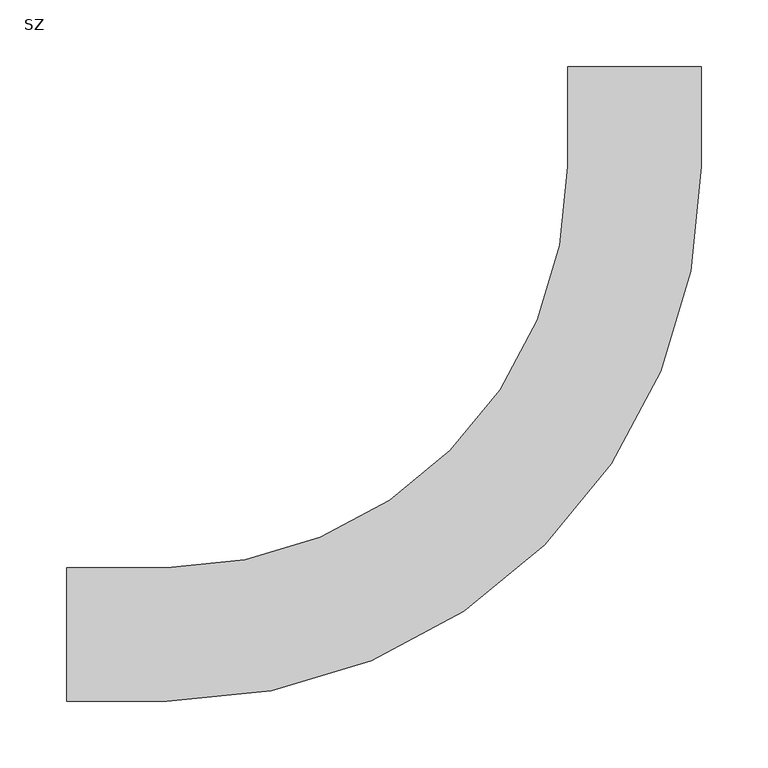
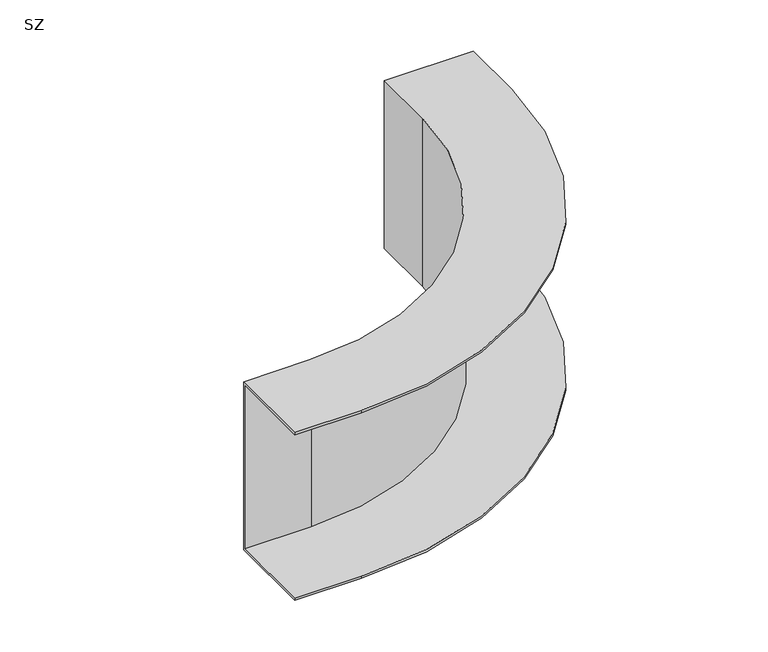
"""IFC4 building model written with IfcOpenShell, lengths in millimetres: cable carrier fitting geometry, IEK_Листовой_Поворот плавный вертик наруж : SZ."""

from ifc_helpers import new_model, si_unit, frame, origin, place, context, project, spatial, polyline, circle_curve, source, transform, mapped, element, save
from ifc_brep_helpers import plane_surface, cylinder_surface, revolved_surface, advanced_brep


def sz_e15724c8(model_context):
    return source(origin(), model_context, "Body", "AdvancedBrep", [
        advanced_brep(
        [(-425.0, -50.0, 100.0), (-425.0, 50.0, 100.0), (-425.0, 50.0, -100.0), (-425.0, -50.0, -100.0), (-425.0, -50.0, -97.5), (-425.0, 47.5, -97.5), (-425.0, 47.5, 97.5), (-425.0, -50.0, 97.5), (50.0, 425.0, 100.0), (50.0, 425.0, 97.5), (-47.5, 425.0, 97.5), (-47.5, 425.0, -97.5), (50.0, 425.0, -97.5), (50.0, 425.0, -100.0), (-50.0, 425.0, -100.0), (-50.0, 425.0, 100.0), (-350.0, -50.0, 100.0), (50.0, 350.0, 100.0), (-50.0, 350.0, 100.0), (-350.0, 50.0, 100.0), (-350.0, 50.0, -100.0), (-50.0, 350.0, -100.0), (50.0, 350.0, -100.0), (-350.0, -50.0, -100.0), (-350.0, -50.0, -97.5), (50.0, 350.0, -97.5), (-47.5, 350.0, -97.5), (-350.0, 47.5, -97.5), (-350.0, 47.5, 97.5), (-47.5, 350.0, 97.5), (50.0, 350.0, 97.5), (-350.0, -50.0, 97.5)],
        [
            (0, 1),
            (1, 2),
            (2, 3),
            (3, 4),
            (4, 5),
            (5, 6),
            (6, 7),
            (7, 0),
            (8, 9),
            (9, 10),
            (10, 11),
            (11, 12),
            (12, 13),
            (13, 14),
            (14, 15),
            (15, 8),
            (0, 16),
            (16, 17, circle_curve(frame((-350.0, 350.0, 100.0), z_axis=(0.0, 0.0, 1.0), x_axis=(0.0, -1.0, 0.0)), 400.0)),
            (17, 8),
            (15, 18),
            (18, 19, circle_curve(frame((-350.0, 350.0, 100.0), z_axis=(0.0, 0.0, -1.0), x_axis=(0.0, -1.0, 0.0)), 300.0)),
            (19, 1),
            (19, 20),
            (20, 2),
            (20, 21, circle_curve(frame((-350.0, 350.0, -100.0), z_axis=(0.0, 0.0, 1.0), x_axis=(0.0, -1.0, 0.0)), 300.0)),
            (21, 14),
            (13, 22),
            (22, 23, circle_curve(frame((-350.0, 350.0, -100.0), z_axis=(0.0, 0.0, -1.0), x_axis=(0.0, -1.0, 0.0)), 400.0)),
            (23, 3),
            (23, 24),
            (24, 4),
            (24, 25, circle_curve(frame((-350.0, 350.0, -97.5), z_axis=(0.0, 0.0, 1.0), x_axis=(0.0, -1.0, 0.0)), 400.0)),
            (25, 12),
            (11, 26),
            (26, 27, circle_curve(frame((-350.0, 350.0, -97.5), z_axis=(0.0, 0.0, -1.0), x_axis=(0.0, -1.0, 0.0)), 302.5)),
            (27, 5),
            (27, 28),
            (28, 6),
            (28, 29, circle_curve(frame((-350.0, 350.0, 97.5), z_axis=(0.0, 0.0, 1.0), x_axis=(0.0, -1.0, 0.0)), 302.5)),
            (29, 10),
            (9, 30),
            (30, 31, circle_curve(frame((-350.0, 350.0, 97.5), z_axis=(0.0, 0.0, -1.0), x_axis=(0.0, -1.0, 0.0)), 400.0)),
            (31, 7),
            (31, 16),
            (18, 21),
            (22, 25),
            (26, 29),
            (30, 17),
        ],
        [
            plane_surface(frame((-425.0, 0.0, 0.0), z_axis=(-1.0, 0.0, 0.0), x_axis=(0.0, 0.0, 1.0))),
            plane_surface(frame((0.0, 425.0, 0.0), z_axis=(0.0, 1.0, 0.0), x_axis=(0.0, 0.0, 1.0))),
            plane_surface(frame((-425.0, -50.0, 100.0), z_axis=(0.0, 0.0, 1.0), x_axis=(1.0, 0.0, 0.0))),
            plane_surface(frame((-425.0, 50.0, 100.0), z_axis=(0.0, 1.0, 0.0), x_axis=(1.0, 0.0, 0.0))),
            plane_surface(frame((-425.0, 50.0, -100.0), z_axis=(0.0, 0.0, -1.0), x_axis=(1.0, 0.0, 0.0))),
            plane_surface(frame((-425.0, -50.0, -100.0), z_axis=(0.0, -1.0, 0.0), x_axis=(1.0, 0.0, 0.0))),
            plane_surface(frame((-425.0, -50.0, -97.5), z_axis=(0.0, 0.0, 1.0), x_axis=(1.0, 0.0, 0.0))),
            plane_surface(frame((-425.0, 47.5, -97.5), z_axis=(0.0, -1.0, 0.0), x_axis=(1.0, 0.0, 0.0))),
            plane_surface(frame((-425.0, 47.5, 97.5), z_axis=(0.0, 0.0, -1.0), x_axis=(1.0, 0.0, 0.0))),
            plane_surface(frame((-425.0, -50.0, 97.5), z_axis=(0.0, -1.0, 0.0), x_axis=(1.0, 0.0, 0.0))),
            revolved_surface(polyline([(-350.0, 50.0, 100.0), (-350.0, 50.0, -100.0)]), (-350.0, 350.0, 0.0), (0.0, 0.0, 1.0)),
            cylinder_surface(frame((-350.0, 350.0, 0.0), z_axis=(0.0, 0.0, 1.0), x_axis=(0.0, -1.0, 0.0)), 400.0),
            cylinder_surface(frame((-350.0, 350.0, 0.0), z_axis=(0.0, 0.0, 1.0), x_axis=(0.0, -1.0, 0.0)), 302.5),
            plane_surface(frame((-50.0, 350.0, 100.0), z_axis=(-1.0, 0.0, 0.0), x_axis=(0.0, 1.0, 0.0))),
            plane_surface(frame((50.0, 350.0, -100.0), z_axis=(1.0, 0.0, 0.0), x_axis=(0.0, 1.0, 0.0))),
            plane_surface(frame((-47.5, 350.0, -97.5), z_axis=(1.0, 0.0, 0.0), x_axis=(0.0, 1.0, 0.0))),
            plane_surface(frame((50.0, 350.0, 97.5), z_axis=(1.0, 0.0, 0.0), x_axis=(0.0, 1.0, 0.0))),
        ],
        [
            (0, [[1, 2, 3, 4, 5, 6, 7, 8]]),
            (1, [[9, 10, 11, 12, 13, 14, 15, 16]]),
            (2, [[-1, 17, 18, 19, -16, 20, 21, 22]]),
            (3, [[-2, -22, 23, 24]]),
            (4, [[-3, -24, 25, 26, -14, 27, 28, 29]]),
            (5, [[-4, -29, 30, 31]]),
            (6, [[-5, -31, 32, 33, -12, 34, 35, 36]]),
            (7, [[-6, -36, 37, 38]]),
            (8, [[-7, -38, 39, 40, -10, 41, 42, 43]]),
            (9, [[-8, -43, 44, -17]]),
            (10, [[-25, -23, -21, 45]]),
            (11, [[-32, -30, -28, 46]]),
            (12, [[-39, -37, -35, 47]]),
            (11, [[-18, -44, -42, 48]]),
            (13, [[-45, -20, -15, -26]]),
            (14, [[-46, -27, -13, -33]]),
            (15, [[-47, -34, -11, -40]]),
            (16, [[-48, -41, -9, -19]]),
        ],
    ),
    ])


if __name__ == "__main__":
    model = new_model("IFC4")
    model_context = context("Model", 3, world=origin())
    ifc_project = project(units=[si_unit("LENGTHUNIT", "METRE", prefix="MILLI")], contexts=[model_context])
    site = spatial("IfcSite", under=ifc_project)
    building = spatial("IfcBuilding", under=site)
    placement = place(None, origin())
    sz_shape = sz_e15724c8(model_context)
    element("IfcCableCarrierFitting", 1, ObjectType="IEK_Листовой_Поворот плавный вертик наруж : SZ", at=placement, inside=building, context=model_context, shape_type="MappedRepresentation", body=[
        mapped(sz_shape, transform((0.0, 0.0, 0.0), x_axis=(1.0, 0.0, 0.0), y_axis=(0.0, 1.0, 0.0), z_axis=(0.0, 0.0, 1.0))),
    ])
    save(model, "model.ifc")
